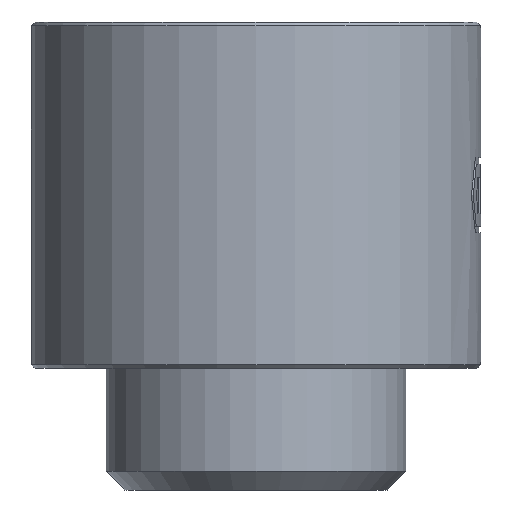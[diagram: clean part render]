
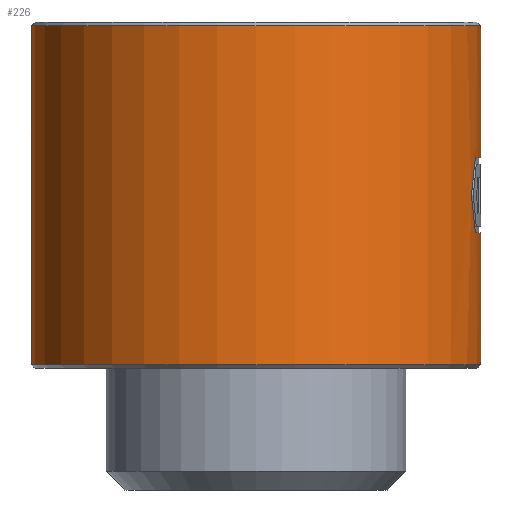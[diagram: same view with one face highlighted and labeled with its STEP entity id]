
A CAD part, front view. The second image highlights one B-rep face of the part: STEP entity #226.
In plain terms, the highlighted cylindrical face has radius 12 mm (diameter 24 mm), a partial arc.
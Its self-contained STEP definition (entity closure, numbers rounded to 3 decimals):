
#10 = VERTEX_POINT ( 'NONE', #674 ) ;
#34 = VERTEX_POINT ( 'NONE', #703 ) ;
#52 = VERTEX_POINT ( 'NONE', #991 ) ;
#60 = VERTEX_POINT ( 'NONE', #979 ) ;
#63 = EDGE_CURVE ( 'NONE', #60, #10, #925, .T. ) ;
#79 = VERTEX_POINT ( 'NONE', #905 ) ;
#81 = EDGE_CURVE ( 'NONE', #79, #34, #900, .T. ) ;
#158 = VERTEX_POINT ( 'NONE', #808 ) ;
#160 = EDGE_CURVE ( 'NONE', #52, #158, #750, .T. ) ;
#163 = ORIENTED_EDGE ( 'NONE', *, *, #81, .T. ) ;
#164 = ORIENTED_EDGE ( 'NONE', *, *, #165, .T. ) ;
#165 = EDGE_CURVE ( 'NONE', #34, #10, #1097, .T. ) ;
#213 = VERTEX_POINT ( 'NONE', #1202 ) ;
#214 = ORIENTED_EDGE ( 'NONE', *, *, #215, .F. ) ;
#215 = EDGE_CURVE ( 'NONE', #216, #213, #1201, .T. ) ;
#216 = VERTEX_POINT ( 'NONE', #1200 ) ;
#217 = ORIENTED_EDGE ( 'NONE', *, *, #218, .F. ) ;
#218 = EDGE_CURVE ( 'NONE', #219, #216, #1019, .T. ) ;
#219 = VERTEX_POINT ( 'NONE', #1018 ) ;
#226 = ADVANCED_FACE ( 'NONE', ( #1116 ), #1110, .T. ) ;
#248 = EDGE_LOOP ( 'NONE', ( #249, #311, #313, #314, #214, #217, #324, #163, #164 ) ) ;
#249 = ORIENTED_EDGE ( 'NONE', *, *, #63, .F. ) ;
#311 = ORIENTED_EDGE ( 'NONE', *, *, #312, .T. ) ;
#312 = EDGE_CURVE ( 'NONE', #60, #52, #1367, .T. ) ;
#313 = ORIENTED_EDGE ( 'NONE', *, *, #160, .T. ) ;
#314 = ORIENTED_EDGE ( 'NONE', *, *, #315, .F. ) ;
#315 = EDGE_CURVE ( 'NONE', #213, #158, #1362, .T. ) ;
#324 = ORIENTED_EDGE ( 'NONE', *, *, #325, .F. ) ;
#325 = EDGE_CURVE ( 'NONE', #79, #219, #1348, .T. ) ;
#674 = CARTESIAN_POINT ( 'NONE',  ( -12., 0., -0.2 ) ) ;
#703 = CARTESIAN_POINT ( 'NONE',  ( 12., 0., -0.2 ) ) ;
#749 = CARTESIAN_POINT ( 'NONE',  ( 12., 0., 0. ) ) ;
#750 = LINE ( 'NONE', #749, #1167 ) ;
#808 = CARTESIAN_POINT ( 'NONE',  ( 12., 0., -11.25 ) ) ;
#897 = DIRECTION ( 'NONE',  ( 0., 0., 1. ) ) ;
#898 = VECTOR ( 'NONE', #897, 1000. ) ;
#899 = CARTESIAN_POINT ( 'NONE',  ( 12., 0., 0. ) ) ;
#900 = LINE ( 'NONE', #899, #898 ) ;
#905 = CARTESIAN_POINT ( 'NONE',  ( 12., 0., -7.25 ) ) ;
#922 = DIRECTION ( 'NONE',  ( 0., 0., 1. ) ) ;
#923 = VECTOR ( 'NONE', #922, 1000. ) ;
#924 = CARTESIAN_POINT ( 'NONE',  ( -12., 0., 0. ) ) ;
#925 = LINE ( 'NONE', #924, #923 ) ;
#979 = CARTESIAN_POINT ( 'NONE',  ( -12., 0., -18.3 ) ) ;
#991 = CARTESIAN_POINT ( 'NONE',  ( 12., 0., -18.3 ) ) ;
#1014 = CARTESIAN_POINT ( 'NONE',  ( 11.505, -3.41, -9.25 ) ) ;
#1015 = CARTESIAN_POINT ( 'NONE',  ( 11.586, -3.136, -8.589 ) ) ;
#1016 = CARTESIAN_POINT ( 'NONE',  ( 11.658, -2.86, -7.923 ) ) ;
#1017 = CARTESIAN_POINT ( 'NONE',  ( 11.719, -2.582, -7.25 ) ) ;
#1018 = CARTESIAN_POINT ( 'NONE',  ( 11.719, -2.582, -7.25 ) ) ;
#1019 = B_SPLINE_CURVE_WITH_KNOTS ( 'NONE', 3,
 ( #1017, #1016, #1015, #1014 ),
 .UNSPECIFIED., .F., .F.,
 ( 4, 4 ),
 ( 0., 1. ),
 .UNSPECIFIED. ) ;
#1095 = CARTESIAN_POINT ( 'NONE',  ( 0., 0., -0.2 ) ) ;
#1096 = AXIS2_PLACEMENT_3D ( 'NONE', #1095, #1119, #1118 ) ;
#1097 = CIRCLE ( 'NONE', #1096, 12. ) ;
#1105 = DIRECTION ( 'NONE',  ( 0., 0., 1. ) ) ;
#1106 = DIRECTION ( 'NONE',  ( 1., 0., 0. ) ) ;
#1107 = DIRECTION ( 'NONE',  ( 0., 0., 1. ) ) ;
#1108 = CARTESIAN_POINT ( 'NONE',  ( 0., 0., 0. ) ) ;
#1109 = AXIS2_PLACEMENT_3D ( 'NONE', #1108, #1107, #1106 ) ;
#1110 = CYLINDRICAL_SURFACE ( 'NONE', #1109, 12. ) ;
#1116 = FACE_OUTER_BOUND ( 'NONE', #248, .T. ) ;
#1118 = DIRECTION ( 'NONE',  ( -1., 0., 0. ) ) ;
#1119 = DIRECTION ( 'NONE',  ( 0., 0., -1. ) ) ;
#1167 = VECTOR ( 'NONE', #1105, 1000. ) ;
#1196 = CARTESIAN_POINT ( 'NONE',  ( 11.719, -2.582, -11.25 ) ) ;
#1197 = CARTESIAN_POINT ( 'NONE',  ( 11.658, -2.86, -10.577 ) ) ;
#1198 = CARTESIAN_POINT ( 'NONE',  ( 11.586, -3.136, -9.911 ) ) ;
#1199 = CARTESIAN_POINT ( 'NONE',  ( 11.505, -3.41, -9.25 ) ) ;
#1200 = CARTESIAN_POINT ( 'NONE',  ( 11.505, -3.41, -9.25 ) ) ;
#1201 = B_SPLINE_CURVE_WITH_KNOTS ( 'NONE', 3,
 ( #1199, #1198, #1197, #1196 ),
 .UNSPECIFIED., .F., .F.,
 ( 4, 4 ),
 ( 0., 1. ),
 .UNSPECIFIED. ) ;
#1202 = CARTESIAN_POINT ( 'NONE',  ( 11.719, -2.582, -11.25 ) ) ;
#1345 = DIRECTION ( 'NONE',  ( -1., 0., 0. ) ) ;
#1346 = DIRECTION ( 'NONE',  ( 0., 0., -1. ) ) ;
#1347 = AXIS2_PLACEMENT_3D ( 'NONE', #1354, #1346, #1345 ) ;
#1348 = CIRCLE ( 'NONE', #1347, 12. ) ;
#1354 = CARTESIAN_POINT ( 'NONE',  ( 0., 0., -7.25 ) ) ;
#1358 = DIRECTION ( 'NONE',  ( 1., 0., 0. ) ) ;
#1359 = DIRECTION ( 'NONE',  ( 0., 0., 1. ) ) ;
#1360 = CARTESIAN_POINT ( 'NONE',  ( 0., 0., -11.25 ) ) ;
#1361 = AXIS2_PLACEMENT_3D ( 'NONE', #1360, #1359, #1358 ) ;
#1362 = CIRCLE ( 'NONE', #1361, 12. ) ;
#1363 = DIRECTION ( 'NONE',  ( 1., 0., 0. ) ) ;
#1364 = DIRECTION ( 'NONE',  ( 0., 0., 1. ) ) ;
#1365 = CARTESIAN_POINT ( 'NONE',  ( 0., 0., -18.3 ) ) ;
#1366 = AXIS2_PLACEMENT_3D ( 'NONE', #1365, #1364, #1363 ) ;
#1367 = CIRCLE ( 'NONE', #1366, 12. ) ;
